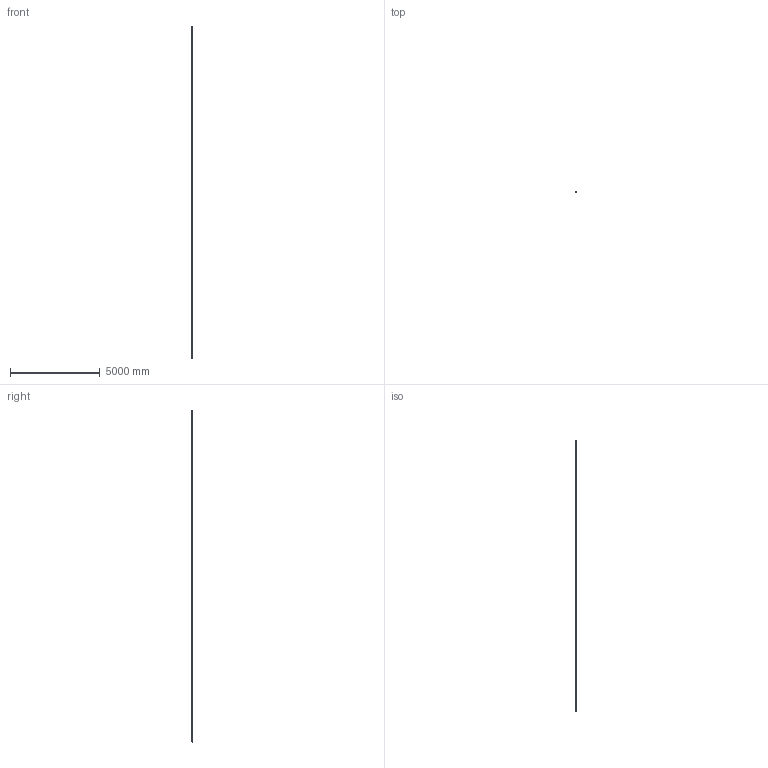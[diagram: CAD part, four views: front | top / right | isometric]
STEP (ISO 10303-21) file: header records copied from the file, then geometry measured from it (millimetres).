
FILE_DESCRIPTION(('Creo Elements/Direct Modeling STEP Export'),'2;1');
FILE_NAME('F-182.stp','2011-11-18T10:03:04',(''),(''),'Creo Elements/Direct Modeling STEP processor for AP214 (Solid Model)','Creo Elements/Direct Modeling 17.0C 05-Feb-2011 (C) Parametric Technology GmbH','');
FILE_SCHEMA(('AUTOMOTIVE_DESIGN { 1 0 10303 214 1 1 1 1 }'));
Length unit declared in the file: millimetre
Products named in the file (5): Modulos_intermedio_(FL-14); Modulo_izq_(K).1; CABEZA; Modulo_der_(14E); F-182
Assembly tree (14 placements, depth 2):
  F-182
    Modulos_intermedio_(FL-14)  x11
    Modulo_der_(14E)
    CABEZA
    Modulo_izq_(K).1
Bounding box: 51.5 x 87.95 x 18535.6 mm (x, y, z)
Volume: 47187152.5 mm3; surface area: 5420886.3 mm2
Topology: 15 solids, 129 shells, 7987 faces, 22280 edges, 14211 vertices
Faces by surface type: cylinder 3515, plane 2974, cone 624, torus 412, bspline 332, extrusion 120, sphere 10
Entity records: 103798 total; most frequent: CARTESIAN_POINT 32485, ORIENTED_EDGE 15264, DIRECTION 13228, EDGE_CURVE 7626, VERTEX_POINT 4929, AXIS2_PLACEMENT_3D 4663, VECTOR 3902, LINE 3882
